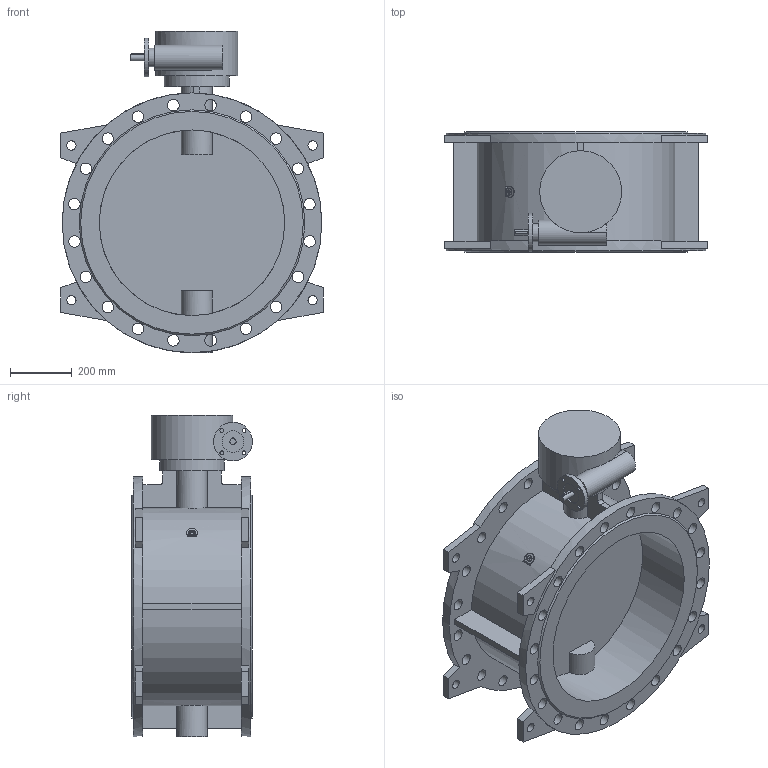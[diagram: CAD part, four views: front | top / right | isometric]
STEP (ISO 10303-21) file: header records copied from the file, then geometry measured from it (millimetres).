
FILE_DESCRIPTION(('STEP AP203'), '1');
FILE_NAME('Çàòâîð 023F.Z DN600 PN16_ð-ð_ôë', '', ('UNSPECIFIED'), ('UNSPECIFIED'), 'ASCON STEP Converter 1.6', 'ASCON Math Kernel', '');
FILE_SCHEMA(('CONFIG_CONTROL_DESIGN'));
Length unit declared in the file: millimetre
Bounding box: 850 x 390 x 1041 mm (x, y, z)
Volume: 60553517.4 mm3; surface area: 3798254.8 mm2
Topology: 1 solids, 1 shells, 187 faces, 484 edges, 322 vertices
Faces by surface type: plane 95, cylinder 90, cone 2
Full cylindrical faces by diameter (mm): 12 x4, 18.5 x4, 20 x1, 23 x4, 30 x8, 37 x40, 60 x1, 70 x1, 80 x1, 100 x1, 125 x1, 210 x1, 265 x1, 600 x2, 840 x2
Entity records: 8099 total; most frequent: CARTESIAN_POINT 1948, DIRECTION 957, ORIENTED_EDGE 812, EDGE_CURVE 406, EDGE_LOOP 389, AXIS2_PLACEMENT_3D 383, VERTEX_POINT 321, FACE_BOUND 246
